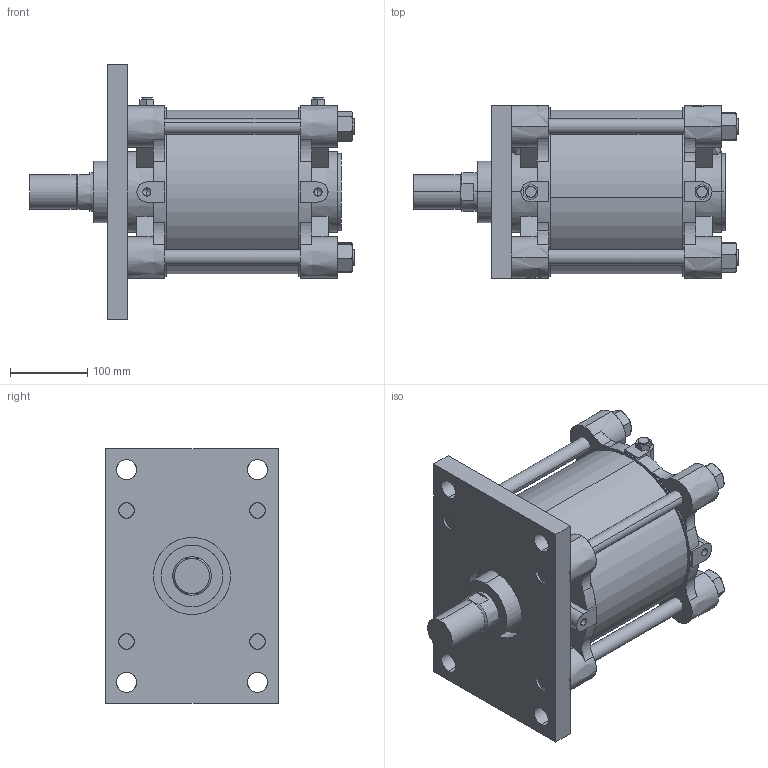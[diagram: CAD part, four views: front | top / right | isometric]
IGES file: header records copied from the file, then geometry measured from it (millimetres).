
Start section: SolidWorks IGES file using analytic representation for surfaces
Global section: file name: C:\Users\Toshiba\Desktop\A##2-200#-100-A.IGS; native system: SolidWorks 2014; preprocessor: SolidWorks 2014; author: Toshiba; date: 160331.145950; units: millimetre
Bounding box: 421 x 224 x 330 mm (x, y, z)
Surface area: 837769 mm2 (no closed solid volume)
Topology: 0 solids, 0 shells, 344 faces, 6996 edges, 6984 vertices
Faces by surface type: bspline 196, revolution 148
